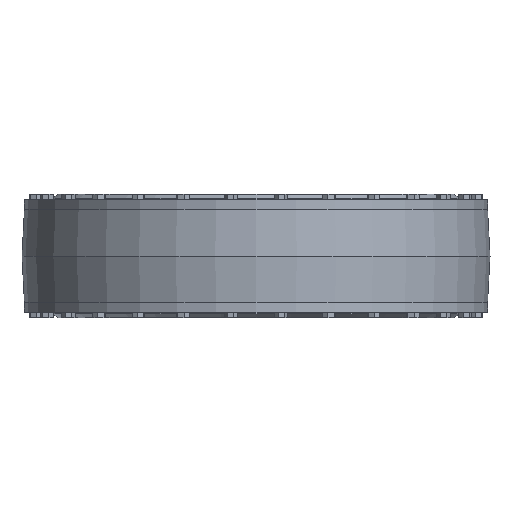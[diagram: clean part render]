
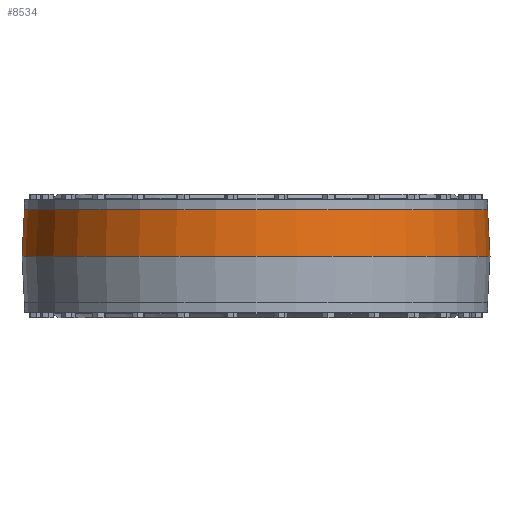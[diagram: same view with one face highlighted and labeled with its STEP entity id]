
A CAD part, front view. The second image highlights one B-rep face of the part: STEP entity #8534.
In plain terms, the highlighted conical face has half-angle 3 degrees and reference radius 376.62 mm.
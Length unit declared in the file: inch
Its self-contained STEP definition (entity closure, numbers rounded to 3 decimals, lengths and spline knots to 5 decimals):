
#66=CONICAL_SURFACE('',#9059,14.82756,0.052);
#212=CIRCLE('',#9057,14.75);
#213=CIRCLE('',#9058,14.75);
#214=CIRCLE('',#9060,14.90513);
#215=CIRCLE('',#9061,14.90513);
#642=FACE_OUTER_BOUND('',#1141,.T.);
#1141=EDGE_LOOP('',(#7253,#7254,#7255,#7256,#7257,#7258));
#2170=LINE('',#13428,#3199);
#3199=VECTOR('',#11115,14.82756);
#3946=VERTEX_POINT('',#13418);
#3947=VERTEX_POINT('',#13419);
#3948=VERTEX_POINT('',#13424);
#3949=VERTEX_POINT('',#13425);
#5049=EDGE_CURVE('',#3946,#3947,#212,.T.);
#5050=EDGE_CURVE('',#3947,#3946,#213,.T.);
#5052=EDGE_CURVE('',#3948,#3949,#214,.T.);
#5053=EDGE_CURVE('',#3949,#3948,#215,.T.);
#5054=EDGE_CURVE('',#3949,#3947,#2170,.T.);
#7253=ORIENTED_EDGE('',*,*,#5052,.F.);
#7254=ORIENTED_EDGE('',*,*,#5053,.F.);
#7255=ORIENTED_EDGE('',*,*,#5054,.T.);
#7256=ORIENTED_EDGE('',*,*,#5050,.T.);
#7257=ORIENTED_EDGE('',*,*,#5049,.T.);
#7258=ORIENTED_EDGE('',*,*,#5054,.F.);
#8534=ADVANCED_FACE('',(#642),#66,.T.);
#9057=AXIS2_PLACEMENT_3D('',#13420,#11104,#11105);
#9058=AXIS2_PLACEMENT_3D('',#13421,#11106,#11107);
#9059=AXIS2_PLACEMENT_3D('',#13423,#11109,#11110);
#9060=AXIS2_PLACEMENT_3D('',#13426,#11111,#11112);
#9061=AXIS2_PLACEMENT_3D('',#13427,#11113,#11114);
#11104=DIRECTION('center_axis',(0.,0.,-1.));
#11105=DIRECTION('ref_axis',(1.,0.,0.));
#11106=DIRECTION('center_axis',(0.,0.,-1.));
#11107=DIRECTION('ref_axis',(1.,0.,0.));
#11109=DIRECTION('center_axis',(0.,0.,-1.));
#11110=DIRECTION('ref_axis',(0.,1.,0.));
#11111=DIRECTION('center_axis',(0.,0.,-1.));
#11112=DIRECTION('ref_axis',(1.,0.,0.));
#11113=DIRECTION('center_axis',(0.,0.,-1.));
#11114=DIRECTION('ref_axis',(1.,0.,0.));
#11115=DIRECTION('',(0.,0.052,0.999));
#13418=CARTESIAN_POINT('',(0.,14.75,2.96));
#13419=CARTESIAN_POINT('',(0.,-14.75,2.96));
#13420=CARTESIAN_POINT('Origin',(0.,0.,2.96));
#13421=CARTESIAN_POINT('Origin',(0.,0.,2.96));
#13423=CARTESIAN_POINT('Origin',(0.,0.,1.48));
#13424=CARTESIAN_POINT('',(0.,14.90513,0.));
#13425=CARTESIAN_POINT('',(0.,-14.90513,0.));
#13426=CARTESIAN_POINT('Origin',(0.,0.,0.));
#13427=CARTESIAN_POINT('Origin',(0.,0.,0.));
#13428=CARTESIAN_POINT('',(0.,-14.82756,1.48));
